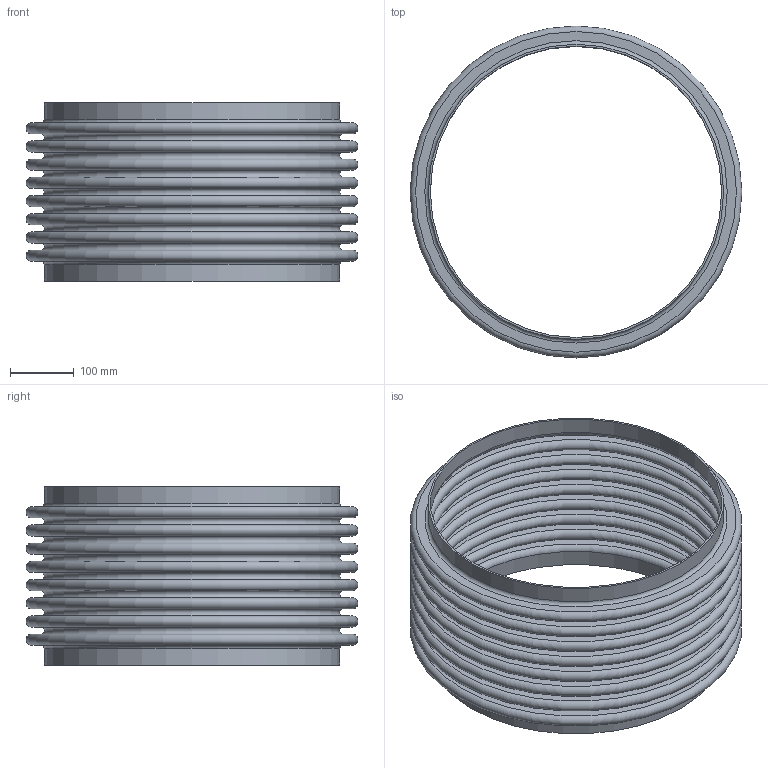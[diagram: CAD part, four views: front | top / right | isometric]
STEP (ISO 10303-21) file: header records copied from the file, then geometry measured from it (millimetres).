
FILE_DESCRIPTION(/* description */ ('STOCK BELLOWS: U.S-18-8-300S, 18.000 I.D., 20.500 O.D., 2 PLY, 16 GA (0.060 THICK), 8 CONS., 1.125 PITCH, 1.000 TANGENT. '),/* implementation_level */ '2;1');
FILE_NAME(/* name */ 'STOCK BELLOW - US-18-8-300S.stp',/* time_stamp */ '2026-07-21T13:30:47-05:00',/* author */ ('KennethB'),/* organization */ (''),/* preprocessor_version */ 'ST-DEVELOPER v20.1',/* originating_system */ 'Autodesk Inventor 2026',/* authorisation */ '');
FILE_SCHEMA (('AUTOMOTIVE_DESIGN { 1 0 10303 214 3 1 1 }'));
Length unit declared in the file: inch
Products named in the file (1): STOCK BELLOW - US-18-8-300S
Bounding box: 520.7 x 520.7 x 279.4 mm (x, y, z)
Volume: 2984919.7 mm3; surface area: 1985051.5 mm2
Topology: 3 solids, 3 shells, 76 faces, 114 edges, 77 vertices
Faces by surface type: plane 38, torus 34, cylinder 4
Full cylindrical faces by diameter (mm): 457.2 x2, 463.296 x2
Entity records: 1814 total; most frequent: DIRECTION 378, CARTESIAN_POINT 268, ORIENTED_EDGE 228, AXIS2_PLACEMENT_3D 187, EDGE_LOOP 114, EDGE_CURVE 114, CIRCLE 110, FACE_OUTER_BOUND 76
